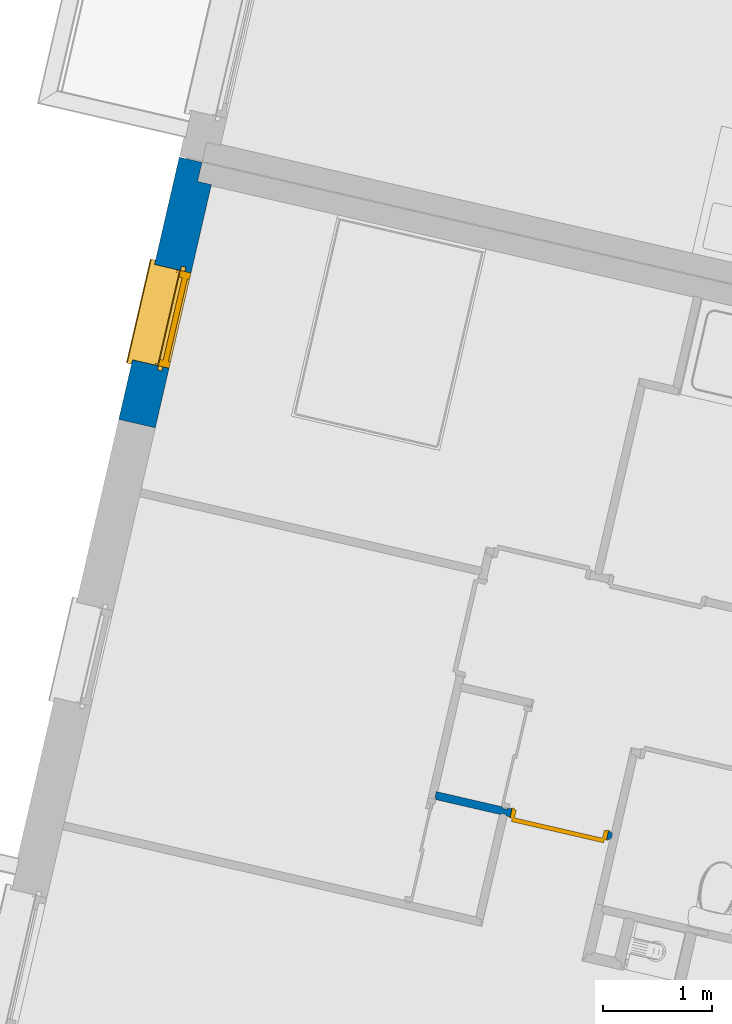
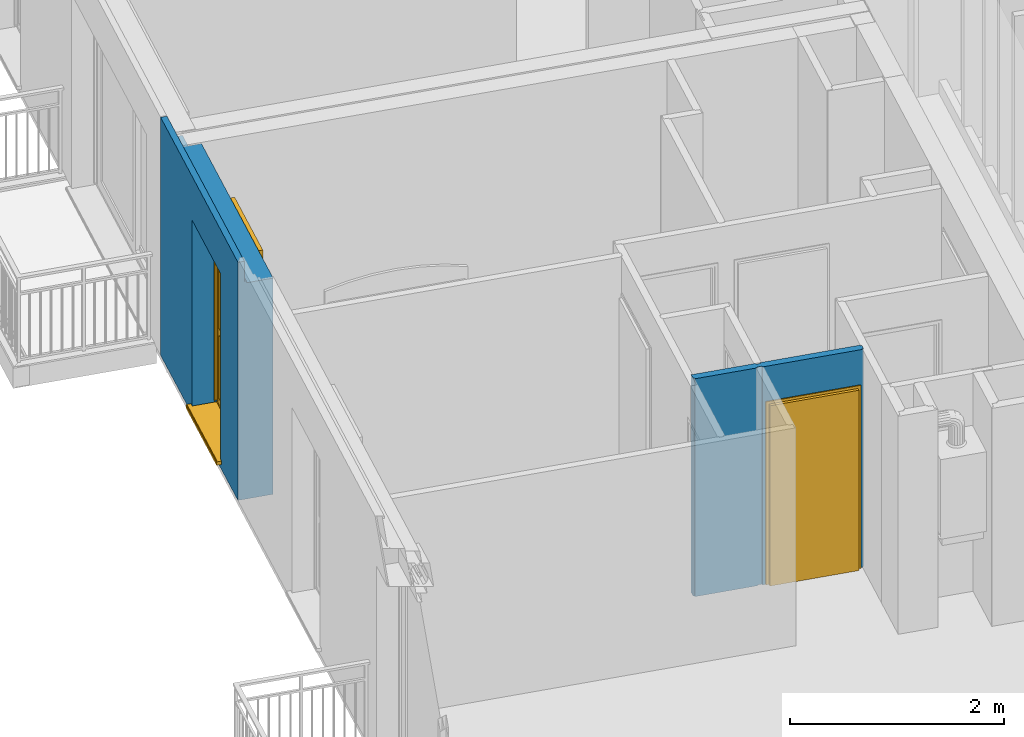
# One storey, part 10 of 62: 2 walls, 1 door, 1 window, 2 openings.
"""IFC2X3 building model written with IfcOpenShell, lengths in metres."""

from ifc_helpers import new_model, entity, si_unit, converted_unit, derived_unit, money_unit, direction, frame, origin_with_axes, place, context, subcontext, project, spatial, open_shell, faceted_brep, surface_model, source, transform, mapped, material, material_list, type_object, element, fill, save


model = new_model("IFC2X3")

# Units and contexts
model_context = context("Model", 3, precision=1e-05, world=origin_with_axes(), true_north=direction((0.0, 1.0)))
body_context = subcontext(model_context, "Body", "Model", "MODEL_VIEW")
ifc_project = project(units=[si_unit("LENGTHUNIT", "METRE"), si_unit("AREAUNIT", "SQUARE_METRE"), si_unit("VOLUMEUNIT", "CUBIC_METRE"), converted_unit("PLANEANGLEUNIT", "DEGREE", entity("IfcPlaneAngleMeasure", 0.0174532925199), si_unit("PLANEANGLEUNIT", "RADIAN"), dimensions=[0, 0, 0, 0, 0, 0, 0]), si_unit("SOLIDANGLEUNIT", "STERADIAN"), money_unit("EUR"), converted_unit("TIMEUNIT", "Year", entity("IfcTimeMeasure", 31556926.0), si_unit("TIMEUNIT", "SECOND"), dimensions=[0, 0, 1, 0, 0, 0, 0]), si_unit("MASSUNIT", "GRAM", prefix="KILO"), si_unit("THERMODYNAMICTEMPERATUREUNIT", "DEGREE_CELSIUS"), si_unit("LUMINOUSINTENSITYUNIT", "LUMEN"), si_unit("ENERGYUNIT", "JOULE", prefix="MEGA"), derived_unit("THERMALCONDUCTANCEUNIT", [(si_unit("POWERUNIT", "WATT"), 1), (si_unit("LENGTHUNIT", "METRE"), -1), (si_unit("THERMODYNAMICTEMPERATUREUNIT", "KELVIN"), -1)]), derived_unit("SPECIFICHEATCAPACITYUNIT", [(si_unit("ENERGYUNIT", "JOULE"), 1), (si_unit("MASSUNIT", "GRAM", prefix="KILO"), -1), (si_unit("THERMODYNAMICTEMPERATUREUNIT", "KELVIN"), -1)]), derived_unit("MASSDENSITYUNIT", [(si_unit("MASSUNIT", "GRAM", prefix="KILO"), 1), (si_unit("VOLUMEUNIT", "CUBIC_METRE"), -1)])], contexts=[model_context])

# Site, building, storey
site_placement = place(None, origin_with_axes())
site = spatial("IfcSite", under=ifc_project, at=site_placement, Name="Site", CompositionType="ELEMENT")
building_placement = place(site_placement, origin_with_axes())
building = spatial("IfcBuilding", under=site, at=building_placement, Name="Bâtiment", CompositionType="ELEMENT")
storey_placement = place(building_placement, frame((0.0, 0.0, 8.16), z_axis=(0.0, 0.0, 1.0), x_axis=(1.0, 0.0, 0.0)))
storey = spatial("IfcBuildingStorey", under=building, at=storey_placement, Name="R+3", CompositionType="ELEMENT", Elevation=8.16)

# Wall, opening, door
ifc_material_1 = material(Name="Finition int - Plaque de plâtre")
ifc_material_2 = material(Name="Isolation - Laine de roche")
ifc_material_list_1 = material_list([ifc_material_1, ifc_material_2, ifc_material_1])
wall_type_1 = type_object("IfcWallType", Name="3 - Cloison 72mm Placostil 74", PredefinedType="USERDEFINED")
wall_1_placement = place(storey_placement, frame((-12.9591073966, -2.29017041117, 0.0), z_axis=(0.0, 0.0, 1.0), x_axis=(-0.974387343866, 0.224876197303, 0.0)))
wall_1 = element("IfcWall", 1, at=wall_1_placement, inside=storey, type_object=wall_type_1, material=ifc_material_list_1, Name="Cloison Placostil 72/48", ObjectType="PARTITIONING", context=body_context, shape_type="Brep", body=[
    faceted_brep([(1.64102042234, -0.013, 2.49), (1.02802042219, -0.013, 2.49), (1.02802042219, -0.013, 0.0), (1.64102042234, -0.013, 0.0), (1.02802042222, 0.0, 2.49), (1.64102042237, 0.0, 2.49), (1.02802042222, 0.0, 0.0), (1.64102042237, 0.0, 0.0)], [[[0, 1, 2, 3]], [[4, 1, 0, 5]], [[1, 4, 6, 2]], [[6, 7, 3, 2]], [[5, 0, 3, 7]], [[4, 5, 7, 6]]]),
    faceted_brep([(0.93851021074, -0.013, 2.08), (0.93851021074, -0.013, 0.0), (0.980020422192, -0.013, 0.0), (0.980020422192, -0.013, 2.49), (4.61890081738e-10, -0.013, 2.49), (4.61890081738e-10, -0.013, 0.0), (0.02851021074, -0.013, 0.0), (0.02851021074, -0.013, 2.08), (0.93851021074, 0.0, 2.08), (0.93851021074, 0.0, 0.0), (0.980020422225, 0.0, 0.0), (0.980020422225, 0.0, 2.49), (4.95568031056e-10, 0.0, 2.49), (4.95568031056e-10, 0.0, 0.0), (0.02851021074, 0.0, 0.0), (0.02851021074, 0.0, 2.08)], [[[0, 1, 2, 3, 4, 5, 6, 7]], [[1, 0, 8, 9]], [[1, 9, 10, 2]], [[3, 2, 10, 11]], [[4, 3, 11, 12]], [[12, 13, 5, 4]], [[14, 6, 5, 13]], [[7, 6, 14, 15]], [[0, 7, 15, 8]], [[15, 14, 13, 12, 11, 10, 9, 8]]]),
    faceted_brep([(0.93851021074, -0.061, 2.08), (0.93851021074, -0.061, 0.0), (1.65402042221, -0.061, 0.0), (1.65402042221, -0.061, 2.49), (-0.0129999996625, -0.061, 2.49), (-0.0129999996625, -0.061, 0.0), (0.02851021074, -0.061, 0.0), (0.02851021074, -0.061, 2.08), (0.93851021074, -0.013, 2.08), (0.93851021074, -0.013, 0.0), (1.65402042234, -0.013, 0.0), (1.65402042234, -0.013, 2.49), (-0.0129999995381, -0.013, 2.49), (-0.0129999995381, -0.013, 0.0), (0.02851021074, -0.013, 0.0), (0.02851021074, -0.013, 2.08)], [[[0, 1, 2, 3, 4, 5, 6, 7]], [[1, 0, 8, 9]], [[1, 9, 10, 2]], [[3, 2, 10, 11]], [[4, 3, 11, 12]], [[12, 13, 5, 4]], [[14, 6, 5, 13]], [[7, 6, 14, 15]], [[0, 7, 15, 8]], [[15, 14, 13, 12, 11, 10, 9, 8]]]),
    faceted_brep([(1.65402042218, -0.074, 2.49), (1.02802042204, -0.074, 2.49), (1.02802042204, -0.074, 0.0), (1.65402042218, -0.074, 0.0), (1.02802042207, -0.061, 2.49), (1.65402042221, -0.061, 2.49), (1.02802042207, -0.061, 0.0), (1.65402042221, -0.061, 0.0)], [[[0, 1, 2, 3]], [[4, 1, 0, 5]], [[1, 4, 6, 2]], [[6, 7, 3, 2]], [[5, 0, 3, 7]], [[4, 5, 7, 6]]]),
    faceted_brep([(0.93851021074, -0.074, 2.08), (0.93851021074, -0.074, 0.0), (0.980020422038, -0.074, 0.0), (0.980020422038, -0.074, 2.49), (3.03858271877e-10, -0.074, 2.49), (3.03858271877e-10, -0.074, 0.0), (0.02851021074, -0.074, 0.0), (0.02851021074, -0.074, 2.08), (0.93851021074, -0.061, 2.08), (0.93851021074, -0.061, 0.0), (0.98002042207, -0.061, 0.0), (0.98002042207, -0.061, 2.49), (3.37536221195e-10, -0.061, 2.49), (3.37536221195e-10, -0.061, 0.0), (0.02851021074, -0.061, 0.0), (0.02851021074, -0.061, 2.08)], [[[0, 1, 2, 3, 4, 5, 6, 7]], [[1, 0, 8, 9]], [[1, 9, 10, 2]], [[3, 2, 10, 11]], [[4, 3, 11, 12]], [[12, 13, 5, 4]], [[14, 6, 5, 13]], [[7, 6, 14, 15]], [[0, 7, 15, 8]], [[15, 14, 13, 12, 11, 10, 9, 8]]]),
])
opening_1_placement = place(wall_1_placement, frame((0.48351021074, 0.0, 0.0), z_axis=(0.0, 0.0, 1.0), x_axis=(1.0, 0.0, 0.0)))
opening_1 = element("IfcOpeningElement", 2, at=opening_1_placement, cuts=wall_1, Name="Porte 83x204 bois alvéolaire", context=body_context, shape_type="Brep", body=[
    faceted_brep([(-0.455, 0.074, 0.0), (0.455, 0.074, 0.0), (0.455, -0.074, 0.0), (-0.455, -0.074, 0.0), (-0.455, 0.074, 2.08), (0.455, 0.074, 2.08), (0.455, -0.074, 2.08), (-0.455, -0.074, 2.08)], [[[0, 1, 2, 3]], [[0, 4, 5, 1]], [[1, 5, 6, 2]], [[3, 2, 6, 7]], [[4, 0, 3, 7]], [[5, 4, 7, 6]]]),
])
door_style = type_object("IfcDoorStyle", Name="Porte int générique 2019", ConstructionType="NOTDEFINED", OperationType="SINGLE_SWING_LEFT", ParameterTakesPrecedence=False, Sizeable=False)
shared_shape_1 = source(origin_with_axes(), body_context, "Body", "Brep", [
    faceted_brep([(-0.455, -0.006, 0.0), (-0.455, -0.006, 2.08), (0.455, -0.006, 2.08), (0.455, -0.006, 0.0), (0.415, -0.006, 0.0), (0.415, -0.006, 2.04), (-0.415, -0.006, 2.04), (-0.415, -0.006, 0.0), (-0.455, -0.08, 0.0), (-0.455, -0.08, 2.08), (0.455, -0.08, 2.08), (0.455, -0.08, 0.0), (0.415, -0.08, 0.0), (0.415, -0.08, 2.04), (-0.415, -0.08, 2.04), (-0.415, -0.08, 0.0)], [[[0, 1, 2, 3, 4, 5, 6, 7]], [[8, 9, 1, 0]], [[9, 10, 2, 1]], [[10, 11, 3, 2]], [[3, 11, 12, 4]], [[5, 4, 12, 13]], [[6, 5, 13, 14]], [[7, 6, 14, 15]], [[0, 7, 15, 8]], [[15, 14, 13, 12, 11, 10, 9, 8]]]),
    faceted_brep([(-0.465, -0.006, 0.0), (-0.465, -0.006, 2.09), (-0.465, 0.004, 2.09), (-0.465, 0.004, 0.0), (-0.435, -0.006, 0.0), (-0.435, -0.006, 2.06), (0.435, -0.006, 2.06), (0.435, -0.006, 0.0), (0.465, -0.006, 0.0), (0.465, -0.006, 2.09), (0.465, 0.004, 2.09), (0.465, 0.004, 0.0), (0.435, 0.004, 0.0), (0.435, 0.004, 2.06), (-0.435, 0.004, 2.06), (-0.435, 0.004, 0.0)], [[[0, 1, 2, 3]], [[4, 5, 6, 7, 8, 9, 1, 0]], [[1, 9, 10, 2]], [[3, 2, 10, 11, 12, 13, 14, 15]], [[0, 3, 15, 4]], [[15, 14, 5, 4]], [[14, 13, 6, 5]], [[13, 12, 7, 6]], [[8, 7, 12, 11]], [[9, 8, 11, 10]]]),
    faceted_brep([(-0.465, -0.09, 0.0), (-0.465, -0.09, 2.09), (-0.465, -0.08, 2.09), (-0.465, -0.08, 0.0), (-0.435, -0.09, 0.0), (-0.435, -0.09, 2.06), (0.435, -0.09, 2.06), (0.435, -0.09, 0.0), (0.465, -0.09, 0.0), (0.465, -0.09, 2.09), (0.465, -0.08, 2.09), (0.465, -0.08, 0.0), (0.435, -0.08, 0.0), (0.435, -0.08, 2.06), (-0.435, -0.08, 2.06), (-0.435, -0.08, 0.0)], [[[0, 1, 2, 3]], [[4, 5, 6, 7, 8, 9, 1, 0]], [[1, 9, 10, 2]], [[3, 2, 10, 11, 12, 13, 14, 15]], [[0, 3, 15, 4]], [[15, 14, 5, 4]], [[14, 13, 6, 5]], [[13, 12, 7, 6]], [[8, 7, 12, 11]], [[9, 8, 11, 10]]]),
    faceted_brep([(-0.435, 0.034, 0.0), (0.435, 0.034, 0.0), (0.435, -0.006, 0.0), (-0.435, -0.006, 0.0), (-0.435, 0.034, 2.06), (0.435, 0.034, 2.06), (0.435, -0.006, 2.06), (-0.435, -0.006, 2.06)], [[[0, 1, 2, 3]], [[0, 4, 5, 1]], [[1, 5, 6, 2]], [[3, 2, 6, 7]], [[4, 0, 3, 7]], [[5, 4, 7, 6]]]),
])
door_placement = place(opening_1_placement, frame((-0.415, 0.0, 0.0), z_axis=(0.0, 0.0, 1.0), x_axis=(1.0, 0.0, 0.0)))
door = element("IfcDoor", 3, at=door_placement, inside=storey, type_object=door_style, Name="Porte 83x204 bois alvéolaire", ObjectType="DOOR", OverallHeight=2.04, OverallWidth=0.83, context=body_context, shape_type="MappedRepresentation", body=[
    mapped(shared_shape_1, transform((0.415, 0.006, 0.0))),
])
fill(opening_1, door)

# Wall, opening, window
ifc_material_3 = material(Name="Isolation - Polystyrène extrudé")
ifc_material_4 = material(Name="Bloc ELITHERM")
ifc_material_5 = material(Name="Isolation - Polystyrène expansé")
ifc_material_6 = material(Name="Mortier")
ifc_material_7 = material(Name="Béton cellulaire")
ifc_material_8 = material(Name="Finition ext - Crépis")
ifc_material_list_2 = material_list([ifc_material_1, ifc_material_3, ifc_material_4, ifc_material_5, ifc_material_6, ifc_material_7, ifc_material_8])
wall_type_2 = type_object("IfcWallType", Name="Mur ALKERN + planelle 25 345 x 2720", PredefinedType="USERDEFINED")
wall_2_placement = place(storey_placement, frame((-16.9185229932, 3.99020048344, 0.0), z_axis=(0.0, 0.0, 1.0), x_axis=(-0.224876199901, -0.974387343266, 0.0)))
wall_2 = element("IfcWall", 4, at=wall_2_placement, inside=storey, type_object=wall_type_2, material=ifc_material_list_2, Name="Mue bloc ALKERN isolé", ObjectType="SOLIDWALL", context=body_context, shape_type="Brep", body=[
    faceted_brep([(2.47633959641, 0.344999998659, 2.47), (2.47633959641, 0.344999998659, 0.0), (0.180000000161, 0.344999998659, 0.0), (0.180000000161, 0.344999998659, 2.47), (1.91362669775, 0.344999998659, 2.22), (1.91362669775, 0.344999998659, 2.4), (1.01362669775, 0.344999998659, 2.4), (1.01362669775, 0.344999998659, 2.22), (1.01362669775, 0.344999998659, 0.12), (1.91362669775, 0.344999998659, 0.12), (2.47633959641, 0.33499998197, 2.47), (2.47633959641, 0.33499998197, 0.0), (0.180000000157, 0.33499998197, 0.0), (0.180000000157, 0.33499998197, 2.47), (1.91362669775, 0.33499998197, 2.22), (1.91362669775, 0.33499998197, 2.4), (1.91362669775, 0.33499998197, 0.12), (1.01362669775, 0.33499998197, 2.4), (1.01362669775, 0.33499998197, 2.22), (1.01362669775, 0.33499998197, 0.12)], [[[0, 1, 2, 3], [4, 5, 6, 7, 8, 9]], [[0, 10, 11, 1]], [[1, 11, 12, 2]], [[2, 12, 13, 3]], [[10, 0, 3, 13]], [[14, 15, 5, 4, 9, 16]], [[6, 5, 15, 17]], [[7, 6, 17, 18, 19, 8]], [[8, 19, 16, 9]], [[11, 10, 13, 12], [15, 14, 16, 19, 18, 17]]]),
    faceted_brep([(1.01362669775, 0.215000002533, 0.12), (1.01362669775, 0.215000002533, 0.06), (1.01362669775, 0.286, 0.06), (1.01362669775, 0.286, 0.12), (1.01362669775, 0.33499998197, 0.12), (1.01362669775, 0.33499998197, 2.22), (1.01362669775, 0.33499998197, 2.4), (1.01362669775, 0.215, 2.4), (1.01362669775, 0.215, 2.22), (0.180000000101, 0.215000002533, 2.47), (0.180000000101, 0.215000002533, 0.0), (2.47633959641, 0.215000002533, 0.0), (2.47633959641, 0.215000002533, 2.47), (1.91362669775, 0.215, 2.4), (1.91362669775, 0.215, 2.22), (1.91362669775, 0.215000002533, 0.12), (1.91362669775, 0.215000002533, 0.06), (1.91362669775, 0.286, 0.06), (1.91362669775, 0.286, 0.12), (1.91362669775, 0.33499998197, 0.12), (0.180000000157, 0.33499998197, 0.0), (0.180000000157, 0.33499998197, 2.47), (2.47633959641, 0.33499998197, 2.47), (2.47633959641, 0.33499998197, 0.0), (1.91362669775, 0.33499998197, 2.22), (1.91362669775, 0.33499998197, 2.4)], [[[0, 1, 2, 3, 4, 5, 6, 7, 8]], [[9, 10, 11, 12], [1, 0, 8, 7, 13, 14, 15, 16]], [[1, 16, 17, 2]], [[18, 3, 2, 17]], [[3, 18, 19, 4]], [[20, 21, 22, 23], [5, 4, 19, 24, 25, 6]], [[25, 13, 7, 6]], [[9, 21, 20, 10]], [[10, 20, 23, 11]], [[11, 23, 22, 12]], [[21, 9, 12, 22]], [[18, 17, 16, 15, 14, 13, 25, 24, 19]]]),
    faceted_brep([(1.01362669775, 0.015, 0.12), (1.01362669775, 0.215, 0.12), (1.01362669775, 0.215, 2.22), (1.01362669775, 0.015, 2.22), (1.01362669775, 0.215, 0.06), (1.01362669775, 0.015, 0.06), (2.47633959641, 0.215, 2.47), (2.47633959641, 0.215, 0.0), (1.00537356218e-10, 0.215, 0.0), (1.00536912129e-10, 0.215, 2.47), (1.91362669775, 0.215, 0.06), (1.91362669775, 0.215, 0.12), (1.91362669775, 0.215, 2.22), (1.91362669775, 0.015, 2.22), (2.47633959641, 0.015, 0.0), (2.47633959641, 0.015, 2.47), (0.0, 0.015, 2.47), (0.0, 0.015, 0.0), (1.91362669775, 0.015, 0.12), (1.91362669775, 0.015, 0.06), (2.47633959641, 0.083, 2.47), (0.0, 0.083, 2.47)], [[[0, 1, 2, 3]], [[4, 1, 0, 5]], [[6, 7, 8, 9], [10, 11, 12, 2, 1, 4]], [[12, 13, 3, 2]], [[14, 15, 16, 17], [5, 0, 3, 13, 18, 19]], [[10, 4, 5, 19]], [[6, 20, 15, 14, 7]], [[7, 14, 17, 8]], [[16, 21, 9, 8, 17]], [[20, 6, 9, 21]], [[18, 11, 10, 19]], [[11, 18, 13, 12]], [[15, 20, 21, 16]]]),
    faceted_brep([(0.180000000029, 0.063000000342, 2.49), (0.180000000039, 0.083, 2.49), (0.180000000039, 0.083, 2.48), (0.180000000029, 0.063, 2.48), (2.47633959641, 0.083, 2.49), (2.47633959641, 0.0629999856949, 2.49), (2.47633959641, 0.083, 2.48), (2.47633959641, 0.063, 2.48)], [[[0, 1, 2, 3]], [[4, 1, 0, 5]], [[1, 4, 6, 2]], [[7, 3, 2, 6]], [[5, 0, 3, 7]], [[4, 5, 7, 6]]]),
    faceted_brep([(0.0, 0.083, 2.47), (0.0, 0.083, 2.48), (2.47633959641, 0.083, 2.48), (2.47633959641, 0.083, 2.47), (0.0, 0.015, 2.48), (0.0, 0.015, 2.47), (2.47633959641, 0.015, 2.48), (2.47633959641, 0.015, 2.47)], [[[0, 1, 2, 3]], [[4, 1, 0, 5]], [[1, 4, 6, 2]], [[3, 2, 6, 7]], [[5, 0, 3, 7]], [[4, 5, 7, 6]]]),
    faceted_brep([(0.0, 0.0630000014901, 2.48), (0.0, 0.0630000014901, 2.52), (0.0, 0.0630000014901, 2.72000000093), (2.47633959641, 0.0630000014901, 2.72), (2.47633959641, 0.0630000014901, 2.48), (0.0, 0.015, 2.52), (0.0, 0.015, 2.48), (0.0, 0.015, 2.72000000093), (2.47633959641, 0.015, 2.72), (2.47633959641, 0.015, 2.48)], [[[0, 1, 2, 3, 4]], [[5, 1, 0, 6]], [[1, 5, 7, 2]], [[2, 7, 8, 3]], [[9, 4, 3, 8]], [[6, 0, 4, 9]], [[5, 6, 9, 8, 7]]]),
    faceted_brep([(1.01362669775, 4.66616967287e-10, 0.12), (1.01362669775, 0.0149999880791, 0.12), (1.01362669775, 0.0149999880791, 2.22), (1.01362669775, 4.66616967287e-10, 2.22), (1.01362669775, 0.0149999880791, 0.06), (1.01362669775, 0.0, 0.06), (2.47633959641, 0.0149999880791, 2.72), (2.47633959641, 0.0149999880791, 0.0), (0.0, 0.0149999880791, 0.0), (0.0, 0.0149999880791, 2.52), (0.0, 0.0149999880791, 2.72000000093), (1.91362669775, 0.0149999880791, 0.06), (1.91362669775, 0.0149999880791, 0.12), (1.91362669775, 0.0149999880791, 2.22), (1.91362669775, 4.66620520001e-10, 2.22), (2.47633959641, 0.0, 2.72), (0.0, 4.66620520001e-10, 2.72000000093), (0.0, 4.66616967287e-10, 2.52), (0.0, 0.0, 0.0), (2.47633959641, 0.0, 0.0), (1.91362669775, 4.66620520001e-10, 0.12), (1.91362669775, 0.0, 0.06)], [[[0, 1, 2, 3]], [[4, 1, 0, 5]], [[6, 7, 8, 9, 10], [11, 12, 13, 2, 1, 4]], [[13, 14, 3, 2]], [[15, 16, 17, 18, 19], [5, 0, 3, 14, 20, 21]], [[11, 4, 5, 21]], [[6, 15, 19, 7]], [[8, 7, 19, 18]], [[9, 8, 18, 17]], [[17, 16, 10, 9]], [[16, 15, 6, 10]], [[20, 12, 11, 21]], [[12, 20, 14, 13]]]),
])
opening_2_placement = place(wall_2_placement, frame((1.46362669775, 0.0, 0.12), z_axis=(0.0, 0.0, 1.0), x_axis=(1.0, 0.0, 0.0)))
opening_2 = element("IfcOpeningElement", 5, at=opening_2_placement, cuts=wall_2, Name="MEN 108", context=body_context, shape_type="Brep", body=[
    faceted_brep([(-0.45, 0.834999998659, 0.0), (0.45, 0.834999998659, 0.0), (0.45, 0.245, 0.0), (-0.45, 0.245, 0.0), (-0.45, 0.834999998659, 2.1), (0.45, 0.834999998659, 2.1), (0.45, 0.245, 2.1), (-0.45, 0.245, 2.1)], [[[0, 1, 2, 3]], [[0, 4, 5, 1]], [[1, 5, 6, 2]], [[3, 2, 6, 7]], [[4, 0, 3, 7]], [[5, 4, 7, 6]]]),
    faceted_brep([(-0.45, -0.344999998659, 0.0), (-0.45, -0.344999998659, 2.1), (-0.45, 0.245, 2.1), (-0.45, 0.245, 0.0), (0.45, -0.344999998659, 0.0), (0.45, -0.344999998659, 2.1), (0.45, 0.245, 2.1), (0.45, 0.245, 0.0)], [[[0, 1, 2, 3]], [[0, 4, 5, 1]], [[1, 5, 6, 2]], [[3, 2, 6, 7]], [[4, 0, 3, 7]], [[5, 4, 7, 6]]]),
    faceted_brep([(-0.45, -0.344999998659, 0.0), (-0.45, -0.344999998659, 2.1), (-0.45, 0.245, 2.1), (-0.45, 0.245, 0.0), (0.45, -0.344999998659, 0.0), (0.45, -0.344999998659, 2.1), (0.45, 0.245, 2.1), (0.45, 0.245, 0.0)], [[[0, 1, 2, 3]], [[0, 4, 5, 1]], [[1, 5, 6, 2]], [[3, 2, 6, 7]], [[4, 0, 3, 7]], [[5, 4, 7, 6]]]),
    faceted_brep([(-0.45, 0.804999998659, 2.1), (0.45, 0.804999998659, 2.1), (0.45, 0.215, 2.1), (-0.45, 0.215, 2.1), (-0.45, 0.804999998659, 2.28), (0.45, 0.804999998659, 2.28), (0.45, 0.215, 2.28), (-0.45, 0.215, 2.28)], [[[0, 1, 2, 3]], [[0, 4, 5, 1]], [[1, 5, 6, 2]], [[3, 2, 6, 7]], [[4, 0, 3, 7]], [[5, 4, 7, 6]]]),
    faceted_brep([(-0.45, -0.303999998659, 0.0), (0.45, -0.303999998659, 0.0), (0.45, 0.286, 0.0), (-0.45, 0.286, 0.0), (-0.45, -0.303999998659, -0.06), (0.45, -0.303999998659, -0.06), (0.45, 0.286, -0.06), (-0.45, 0.286, -0.06)], [[[0, 1, 2, 3]], [[0, 4, 5, 1]], [[1, 5, 6, 2]], [[3, 2, 6, 7]], [[4, 0, 3, 7]], [[5, 4, 7, 6]]]),
])
window_style = type_object("IfcWindowStyle", Name="Baie générique 2017 v2", ConstructionType="NOTDEFINED", OperationType="NOTDEFINED", ParameterTakesPrecedence=False, Sizeable=False)
shared_shape_2 = source(origin_with_axes(), body_context, "Body", "SurfaceModel", [
    faceted_brep([(-0.45, 0.0, 2.1), (-0.45, 0.0, 0.0), (0.45, 0.0, 0.0), (0.45, 0.0, 2.1), (0.39, 0.0, 0.85), (-0.39, 0.0, 0.85), (-0.39, 0.0, 2.05), (0.39, 0.0, 2.05), (0.39, 0.0, 0.78), (0.39, 0.0, 0.05), (-0.39, 0.0, 0.05), (-0.39, 0.0, 0.78), (-0.45, 0.1, 2.1), (-0.45, 0.1, 0.0), (0.45, 0.1, 0.0), (0.45, 0.1, 2.1), (0.39, 0.1, 0.85), (-0.39, 0.1, 0.85), (-0.39, 0.1, 2.05), (0.39, 0.1, 2.05), (0.39, 0.1, 0.78), (0.39, 0.1, 0.05), (-0.39, 0.1, 0.05), (-0.39, 0.1, 0.78)], [[[0, 1, 2, 3], [4, 5, 6, 7], [8, 9, 10, 11]], [[0, 12, 13, 1]], [[1, 13, 14, 2]], [[2, 14, 15, 3]], [[3, 15, 12, 0]], [[4, 16, 17, 5]], [[5, 17, 18, 6]], [[6, 18, 19, 7]], [[16, 4, 7, 19]], [[8, 20, 21, 9]], [[9, 21, 22, 10]], [[23, 11, 10, 22]], [[20, 8, 11, 23]], [[14, 13, 12, 15], [16, 19, 18, 17], [20, 23, 22, 21]]]),
    faceted_brep([(0.39, 0.08, 2.05), (0.39, 0.08, 0.85), (-0.39, 0.08, 0.85), (-0.39, 0.08, 2.05), (0.32, 0.08, 1.98), (-0.32, 0.08, 1.98), (-0.32, 0.08, 0.9), (0.32, 0.08, 0.9), (0.39, 0.03, 2.05), (0.39, 0.03, 0.85), (-0.39, 0.03, 0.85), (-0.39, 0.03, 2.05), (0.32, 0.03, 1.98), (-0.32, 0.03, 1.98), (-0.32, 0.03, 0.9), (0.32, 0.03, 0.9)], [[[0, 1, 2, 3], [4, 5, 6, 7]], [[1, 0, 8, 9]], [[10, 2, 1, 9]], [[11, 3, 2, 10]], [[0, 3, 11, 8]], [[5, 4, 12, 13]], [[14, 6, 5, 13]], [[15, 7, 6, 14]], [[4, 7, 15, 12]], [[11, 10, 9, 8], [15, 14, 13, 12]]]),
    surface_model("IfcShellBasedSurfaceModel", [(-0.39, 0.08, 0.85), (-0.39, 0.055, 0.85), (-0.39, 0.055, 2.05), (-0.39, 0.08, 2.05)], [open_shell([[[0, 1, 2, 3]]])]),
    surface_model("IfcShellBasedSurfaceModel", [(0.39, 0.08, 0.85), (0.39, 0.055, 0.85), (0.39, 0.055, 2.05), (0.39, 0.08, 2.05)], [open_shell([[[0, 1, 2, 3]]])]),
    surface_model("IfcShellBasedSurfaceModel", [(-0.39, 0.08, 0.85), (-0.39, 0.055, 0.85), (0.39, 0.055, 0.85), (0.39, 0.08, 0.85)], [open_shell([[[0, 1, 2, 3]]])]),
    surface_model("IfcShellBasedSurfaceModel", [(-0.39, 0.08, 2.05), (-0.39, 0.055, 2.05), (0.39, 0.055, 2.05), (0.39, 0.08, 2.05)], [open_shell([[[0, 1, 2, 3]]])]),
    surface_model("IfcShellBasedSurfaceModel", [(-0.39, 0.055, 0.85), (-0.39, 0.03, 0.85), (-0.39, 0.03, 2.05), (-0.39, 0.055, 2.05)], [open_shell([[[0, 1, 2, 3]]])]),
    surface_model("IfcShellBasedSurfaceModel", [(0.39, 0.055, 0.85), (0.39, 0.03, 0.85), (0.39, 0.03, 2.05), (0.39, 0.055, 2.05)], [open_shell([[[0, 1, 2, 3]]])]),
    surface_model("IfcShellBasedSurfaceModel", [(-0.39, 0.055, 0.85), (-0.39, 0.03, 0.85), (0.39, 0.03, 0.85), (0.39, 0.055, 0.85)], [open_shell([[[0, 1, 2, 3]]])]),
    surface_model("IfcShellBasedSurfaceModel", [(-0.39, 0.055, 2.05), (-0.39, 0.03, 2.05), (0.39, 0.03, 2.05), (0.39, 0.055, 2.05)], [open_shell([[[0, 1, 2, 3]]])]),
    faceted_brep([(-0.32, 0.0575, 0.9), (0.32, 0.0575, 0.9), (0.32, 0.0525, 0.9), (-0.32, 0.0525, 0.9), (-0.32, 0.0575, 1.98), (0.32, 0.0575, 1.98), (0.32, 0.0525, 1.98), (-0.32, 0.0525, 1.98)], [[[0, 1, 2, 3]], [[0, 4, 5, 1]], [[1, 5, 6, 2]], [[3, 2, 6, 7]], [[4, 0, 3, 7]], [[5, 4, 7, 6]]]),
    faceted_brep([(0.39, 0.08, 0.78), (0.39, 0.08, 0.05), (-0.39, 0.08, 0.05), (-0.39, 0.08, 0.78), (0.32, 0.08, 0.71), (-0.32, 0.08, 0.71), (-0.32, 0.08, 0.1), (0.32, 0.08, 0.1), (0.39, 0.03, 0.78), (0.39, 0.03, 0.05), (-0.39, 0.03, 0.05), (-0.39, 0.03, 0.78), (0.32, 0.03, 0.71), (-0.32, 0.03, 0.71), (-0.32, 0.03, 0.1), (0.32, 0.03, 0.1)], [[[0, 1, 2, 3], [4, 5, 6, 7]], [[1, 0, 8, 9]], [[10, 2, 1, 9]], [[11, 3, 2, 10]], [[0, 3, 11, 8]], [[5, 4, 12, 13]], [[14, 6, 5, 13]], [[15, 7, 6, 14]], [[4, 7, 15, 12]], [[11, 10, 9, 8], [15, 14, 13, 12]]]),
    surface_model("IfcShellBasedSurfaceModel", [(-0.39, 0.08, 0.05), (-0.39, 0.055, 0.05), (-0.39, 0.055, 0.78), (-0.39, 0.08, 0.78)], [open_shell([[[0, 1, 2, 3]]])]),
    surface_model("IfcShellBasedSurfaceModel", [(0.39, 0.08, 0.05), (0.39, 0.055, 0.05), (0.39, 0.055, 0.78), (0.39, 0.08, 0.78)], [open_shell([[[0, 1, 2, 3]]])]),
    surface_model("IfcShellBasedSurfaceModel", [(-0.39, 0.08, 0.05), (-0.39, 0.055, 0.05), (0.39, 0.055, 0.05), (0.39, 0.08, 0.05)], [open_shell([[[0, 1, 2, 3]]])]),
    surface_model("IfcShellBasedSurfaceModel", [(-0.39, 0.08, 0.78), (-0.39, 0.055, 0.78), (0.39, 0.055, 0.78), (0.39, 0.08, 0.78)], [open_shell([[[0, 1, 2, 3]]])]),
    surface_model("IfcShellBasedSurfaceModel", [(-0.39, 0.055, 0.05), (-0.39, 0.03, 0.05), (-0.39, 0.03, 0.78), (-0.39, 0.055, 0.78)], [open_shell([[[0, 1, 2, 3]]])]),
    surface_model("IfcShellBasedSurfaceModel", [(0.39, 0.055, 0.05), (0.39, 0.03, 0.05), (0.39, 0.03, 0.78), (0.39, 0.055, 0.78)], [open_shell([[[0, 1, 2, 3]]])]),
    surface_model("IfcShellBasedSurfaceModel", [(-0.39, 0.055, 0.05), (-0.39, 0.03, 0.05), (0.39, 0.03, 0.05), (0.39, 0.055, 0.05)], [open_shell([[[0, 1, 2, 3]]])]),
    surface_model("IfcShellBasedSurfaceModel", [(-0.39, 0.055, 0.78), (-0.39, 0.03, 0.78), (0.39, 0.03, 0.78), (0.39, 0.055, 0.78)], [open_shell([[[0, 1, 2, 3]]])]),
    faceted_brep([(-0.32, 0.0575, 0.1), (0.32, 0.0575, 0.1), (0.32, 0.0525, 0.1), (-0.32, 0.0525, 0.1), (-0.32, 0.0575, 0.71), (0.32, 0.0575, 0.71), (0.32, 0.0525, 0.71), (-0.32, 0.0525, 0.71)], [[[0, 1, 2, 3]], [[0, 4, 5, 1]], [[1, 5, 6, 2]], [[3, 2, 6, 7]], [[4, 0, 3, 7]], [[5, 4, 7, 6]]]),
    faceted_brep([(-0.45, -0.03, 0.0), (-0.425, -0.03, 0.0), (-0.425, -0.03, 2.1), (-0.45, -0.03, 2.1), (-0.45, -0.002, 0.0), (-0.425, -0.002, 0.0), (-0.425, -0.004, 0.0), (-0.448, -0.004, 0.0), (-0.448, -0.028, 0.0), (-0.425, -0.028, 0.0), (-0.425, -0.028, 2.1), (-0.448, -0.028, 2.1), (-0.448, -0.004, 2.1), (-0.425, -0.004, 2.1), (-0.425, -0.002, 2.1), (-0.45, -0.002, 2.1)], [[[0, 1, 2, 3]], [[0, 4, 5, 6, 7, 8, 9, 1]], [[1, 9, 10, 2]], [[3, 2, 10, 11, 12, 13, 14, 15]], [[4, 0, 3, 15]], [[5, 4, 15, 14]], [[6, 5, 14, 13]], [[7, 6, 13, 12]], [[8, 7, 12, 11]], [[9, 8, 11, 10]]]),
    faceted_brep([(0.45, -0.03, 0.0), (0.45, -0.03, 2.1), (0.425, -0.03, 2.1), (0.425, -0.03, 0.0), (0.45, -0.002, 0.0), (0.45, -0.002, 2.1), (0.425, -0.002, 2.1), (0.425, -0.004, 2.1), (0.448, -0.004, 2.1), (0.448, -0.028, 2.1), (0.425, -0.028, 2.1), (0.425, -0.028, 0.0), (0.448, -0.028, 0.0), (0.448, -0.004, 0.0), (0.425, -0.004, 0.0), (0.425, -0.002, 0.0)], [[[0, 1, 2, 3]], [[4, 5, 1, 0]], [[1, 5, 6, 7, 8, 9, 10, 2]], [[3, 2, 10, 11]], [[0, 3, 11, 12, 13, 14, 15, 4]], [[15, 6, 5, 4]], [[14, 7, 6, 15]], [[13, 8, 7, 14]], [[12, 9, 8, 13]], [[11, 10, 9, 12]]]),
    faceted_brep([(0.448, -0.028, 2.1), (-0.448, -0.028, 2.1), (-0.448, -0.028, 2.278), (0.448, -0.028, 2.278), (0.448, -0.03, 2.1), (-0.448, -0.03, 2.1), (-0.448, -0.03, 2.28), (-0.448, 0.17, 2.28), (-0.448, 0.17, 2.1), (-0.448, 0.168, 2.1), (-0.448, 0.168, 2.278), (0.448, 0.168, 2.278), (0.448, 0.168, 2.1), (0.448, 0.17, 2.1), (0.448, 0.17, 2.28), (0.448, -0.03, 2.28)], [[[0, 1, 2, 3]], [[4, 5, 1, 0]], [[1, 5, 6, 7, 8, 9, 10, 2]], [[3, 2, 10, 11]], [[0, 3, 11, 12, 13, 14, 15, 4]], [[15, 6, 5, 4]], [[14, 7, 6, 15]], [[13, 8, 7, 14]], [[12, 9, 8, 13]], [[11, 10, 9, 12]]]),
    faceted_brep([(0.448, 0.0724697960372, 2.17436337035), (0.448, 0.08, 2.19), (0.448, 0.0724697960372, 2.20563662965), (0.448, 0.0555495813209, 2.20949855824), (0.448, 0.041980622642, 2.19867767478), (0.448, 0.041980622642, 2.18132232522), (0.448, 0.0555495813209, 2.17050144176), (-0.448, 0.0724697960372, 2.17436337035), (-0.448, 0.08, 2.19), (-0.448, 0.0724697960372, 2.20563662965), (-0.448, 0.0555495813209, 2.20949855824), (-0.448, 0.041980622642, 2.19867767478), (-0.448, 0.041980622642, 2.18132232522), (-0.448, 0.0555495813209, 2.17050144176)], [[[0, 1, 2, 3, 4, 5, 6]], [[0, 7, 8, 1]], [[1, 8, 9, 2]], [[2, 9, 10, 3]], [[3, 10, 11, 4]], [[4, 11, 12, 5]], [[5, 12, 13, 6]], [[6, 13, 7, 0]], [[7, 13, 12, 11, 10, 9, 8]]]),
    faceted_brep([(0.438, 0.130275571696, 2.15615706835), (0.438, 0.138, 2.19), (0.438, 0.130275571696, 2.22384293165), (0.438, 0.108632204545, 2.25098285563), (0.438, 0.0773566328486, 2.26604437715), (0.438, 0.0426433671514, 2.26604437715), (0.438, 0.011367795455, 2.25098285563), (0.438, -0.0102755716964, 2.22384293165), (0.438, -0.018, 2.19), (0.438, -0.0102755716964, 2.15615706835), (0.438, 0.011367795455, 2.12901714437), (0.438, 0.0426433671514, 2.11395562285), (0.438, 0.0773566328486, 2.11395562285), (0.438, 0.108632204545, 2.12901714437), (-0.438, 0.130275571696, 2.15615706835), (-0.438, 0.138, 2.19), (-0.438, 0.130275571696, 2.22384293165), (-0.438, 0.108632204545, 2.25098285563), (-0.438, 0.0773566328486, 2.26604437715), (-0.438, 0.0426433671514, 2.26604437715), (-0.438, 0.011367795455, 2.25098285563), (-0.438, -0.0102755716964, 2.22384293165), (-0.438, -0.018, 2.19), (-0.438, -0.0102755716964, 2.15615706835), (-0.438, 0.011367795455, 2.12901714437), (-0.438, 0.0426433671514, 2.11395562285), (-0.438, 0.0773566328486, 2.11395562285), (-0.438, 0.108632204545, 2.12901714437)], [[[0, 1, 2, 3, 4, 5, 6, 7, 8, 9, 10, 11, 12, 13]], [[0, 14, 15, 1]], [[1, 15, 16, 2]], [[2, 16, 17, 3]], [[3, 17, 18, 4]], [[4, 18, 19, 5]], [[5, 19, 20, 6]], [[6, 20, 21, 7]], [[7, 21, 22, 8]], [[8, 22, 23, 9]], [[9, 23, 24, 10]], [[10, 24, 25, 11]], [[11, 25, 26, 12]], [[12, 26, 27, 13]], [[13, 27, 14, 0]], [[14, 27, 26, 25, 24, 23, 22, 21, 20, 19, 18, 17, 16, 15]]]),
    faceted_brep([(0.45, 0.17, 2.1), (0.448, 0.17, 2.1), (0.448, 0.17, 2.28), (0.45, 0.17, 2.28), (0.45, -0.03, 2.1), (0.448, -0.03, 2.1), (0.448, -0.03, 2.28), (0.45, -0.03, 2.28)], [[[0, 1, 2, 3]], [[4, 5, 1, 0]], [[1, 5, 6, 2]], [[3, 2, 6, 7]], [[0, 3, 7, 4]], [[7, 6, 5, 4]]]),
    faceted_brep([(-0.448, 0.17, 2.1), (-0.45, 0.17, 2.1), (-0.45, 0.17, 2.28), (-0.448, 0.17, 2.28), (-0.448, -0.03, 2.1), (-0.45, -0.03, 2.1), (-0.45, -0.03, 2.28), (-0.448, -0.03, 2.28)], [[[0, 1, 2, 3]], [[4, 5, 1, 0]], [[1, 5, 6, 2]], [[3, 2, 6, 7]], [[0, 3, 7, 4]], [[7, 6, 5, 4]]]),
    faceted_brep([(0.448, -0.004, 2.1), (-0.448, -0.004, 2.1), (-0.448, 0.168, 2.1), (0.448, 0.168, 2.1), (0.448, -0.004, 2.102), (-0.448, -0.004, 2.102), (-0.448, 0.168, 2.102), (0.448, 0.168, 2.102)], [[[0, 1, 2, 3]], [[4, 5, 1, 0]], [[1, 5, 6, 2]], [[3, 2, 6, 7]], [[0, 3, 7, 4]], [[7, 6, 5, 4]]]),
    faceted_brep([(-0.438, -0.006, 2.1), (-0.438, -0.006, 2.19), (0.438, -0.006, 2.19), (0.438, -0.006, 2.1), (-0.438, -0.026, 2.1), (-0.438, -0.026, 2.19), (0.438, -0.026, 2.19), (0.438, -0.026, 2.1)], [[[0, 1, 2, 3]], [[1, 0, 4, 5]], [[2, 1, 5, 6]], [[3, 2, 6, 7]], [[4, 0, 3, 7]], [[5, 4, 7, 6]]]),
    faceted_brep([(0.45, -0.00167949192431, -0.01), (0.45, 0.0, -0.00373205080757), (0.49, 0.0, -0.00373205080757), (0.49, 0.001, 0.0), (-0.49, 0.001, 0.0), (-0.49, 0.0, -0.00373205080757), (-0.45, 0.0, -0.00373205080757), (-0.45, -0.00167949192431, -0.01), (0.45, -0.009, -0.0173205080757), (0.45, -0.019, -0.02), (0.45, -0.245, -0.02), (0.45, -0.245, -0.06), (0.45, 0.0, -0.06), (0.49, 0.0, -0.06), (0.49, 0.041, -0.06), (0.49, 0.041, 0.0), (-0.49, 0.041, 0.0), (-0.49, 0.041, -0.06), (-0.49, 0.0, -0.06), (-0.45, 0.0, -0.06), (-0.45, -0.245, -0.02), (-0.45, -0.019, -0.02), (-0.45, -0.009, -0.0173205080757), (-0.45, -0.245, -0.06), (-0.49, -0.245, -0.02), (-0.49, -0.285, -0.02), (0.49, -0.285, -0.02), (0.49, -0.245, -0.02), (0.49, -0.245, -0.06), (0.49, -0.275, -0.06), (-0.49, -0.275, -0.06), (-0.49, -0.245, -0.06), (-0.49, -0.295, -0.03), (-0.49, -0.292071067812, -0.0229289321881), (-0.49, -0.275, -0.05), (-0.49, -0.285, -0.05), (-0.49, -0.285, -0.06), (-0.49, -0.295, -0.06), (0.49, -0.292071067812, -0.0229289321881), (0.49, -0.295, -0.03), (0.49, -0.295, -0.06), (0.49, -0.285, -0.06), (0.49, -0.285, -0.05), (0.49, -0.275, -0.05)], [[[0, 1, 2, 3, 4, 5, 6, 7]], [[1, 0, 8, 9, 10, 11, 12]], [[13, 2, 1, 12]], [[2, 13, 14, 15, 3]], [[16, 4, 3, 15]], [[4, 16, 17, 18, 5]], [[5, 18, 19, 6]], [[20, 21, 22, 7, 6, 19, 23]], [[8, 0, 7, 22]], [[9, 8, 22, 21]], [[10, 9, 21, 20, 24, 25, 26, 27]], [[10, 27, 28, 11]], [[11, 28, 29, 30, 31, 23, 19, 18, 17, 14, 13, 12]], [[17, 16, 15, 14]], [[20, 23, 31, 24]], [[32, 33, 25, 24, 31, 30, 34, 35, 36, 37]], [[25, 33, 38, 26]], [[28, 27, 26, 38, 39, 40, 41, 42, 43, 29]], [[34, 30, 29, 43]], [[33, 32, 39, 38]], [[35, 34, 43, 42]], [[36, 35, 42, 41]], [[37, 36, 41, 40]], [[32, 37, 40, 39]]]),
])
window_placement = place(opening_2_placement, frame((-0.45, 0.0, 0.0), z_axis=(0.0, 0.0, 1.0), x_axis=(1.0, 0.0, 0.0)))
window = element("IfcWindow", 6, at=window_placement, inside=storey, type_object=window_style, Name="MEN 108", ObjectType="WINDOW", OverallHeight=2.1, OverallWidth=0.9, context=body_context, shape_type="MappedRepresentation", body=[
    mapped(shared_shape_2, transform((0.45, 0.245, 0.0))),
])
fill(opening_2, window)

save(model, "model.ifc")
